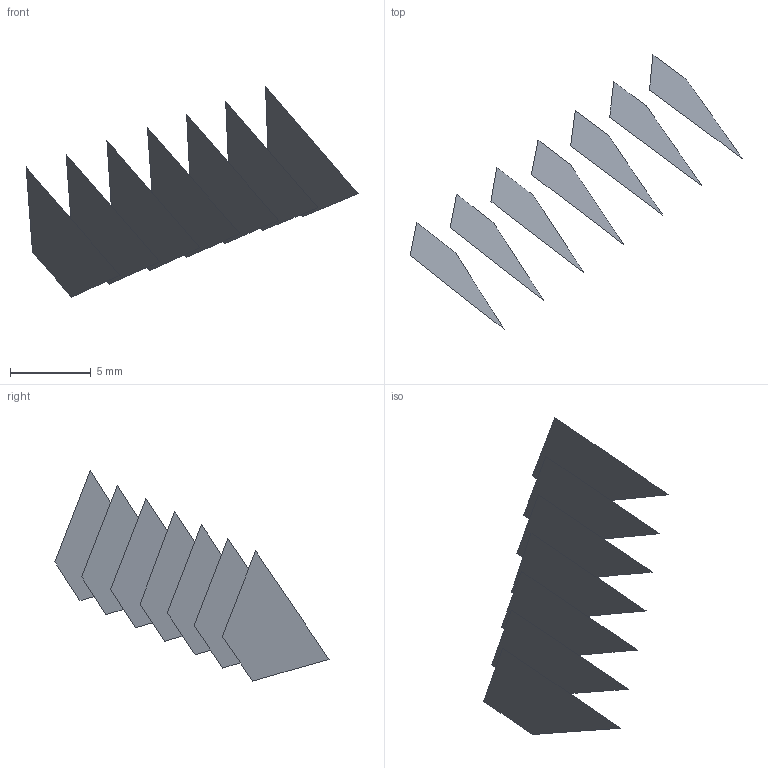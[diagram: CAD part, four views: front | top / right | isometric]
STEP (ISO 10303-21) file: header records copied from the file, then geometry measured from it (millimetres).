
FILE_DESCRIPTION(('FreeCAD Model'),'2;1');
FILE_NAME('Open CASCADE Shape Model','2022-05-22T07:50:32',('FreeCAD'),( 'FreeCAD'),'Open CASCADE STEP processor 7.5','FreeCAD','Unknown');
FILE_SCHEMA(('AUTOMOTIVE_DESIGN { 1 0 10303 214 1 1 1 1 }'));
Length unit declared in the file: millimetre
Products named in the file (8): Open CASCADE STEP translator 7.5 13; Open CASCADE STEP translator 7.5 13.1; Open CASCADE STEP translator 7.5 13.2; Open CASCADE STEP translator 7.5 13.3; Open CASCADE STEP translator 7.5 13.4; Open CASCADE STEP translator 7.5 13.5; Open CASCADE STEP translator 7.5 13.6; Open CASCADE STEP translator 7.5 13.7
Assembly tree (7 placements, depth 2):
  Open CASCADE STEP translator 7.5 13
    Open CASCADE STEP translator 7.5 13.1
    Open CASCADE STEP translator 7.5 13.2
    Open CASCADE STEP translator 7.5 13.3
    Open CASCADE STEP translator 7.5 13.4
    Open CASCADE STEP translator 7.5 13.5
    Open CASCADE STEP translator 7.5 13.6
    Open CASCADE STEP translator 7.5 13.7
Bounding box: 20.59 x 17 x 13.04 mm (x, y, z)
Surface area: 243.8 mm2 (no closed solid volume)
Topology: 0 solids, 7 shells, 7 faces, 60 edges, 60 vertices
Faces by surface type: bspline 7
Entity records: 992 total; most frequent: CARTESIAN_POINT 336, B_SPLINE_CURVE_WITH_KNOTS 120, ORIENTED_EDGE 60, EDGE_CURVE 60, VERTEX_POINT 60, SURFACE_CURVE 60, PCURVE 60, DEFINITIONAL_REPRESENTATION 60
